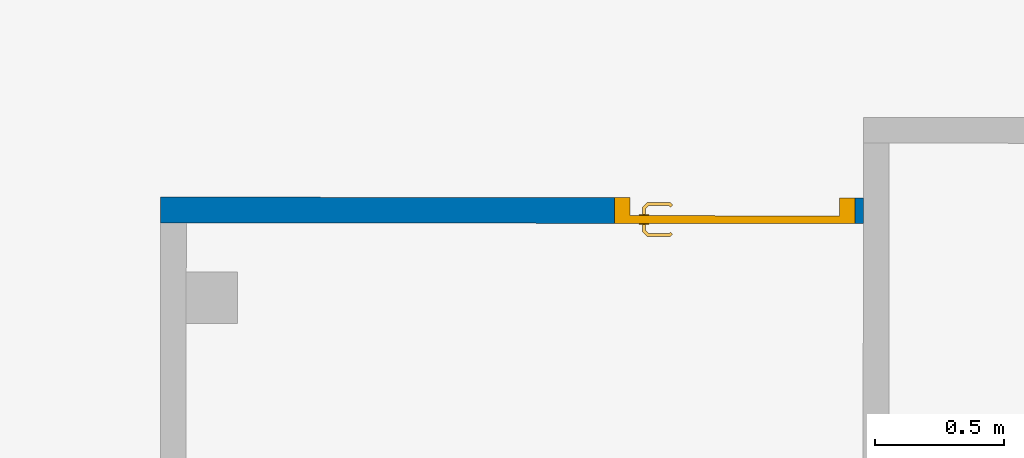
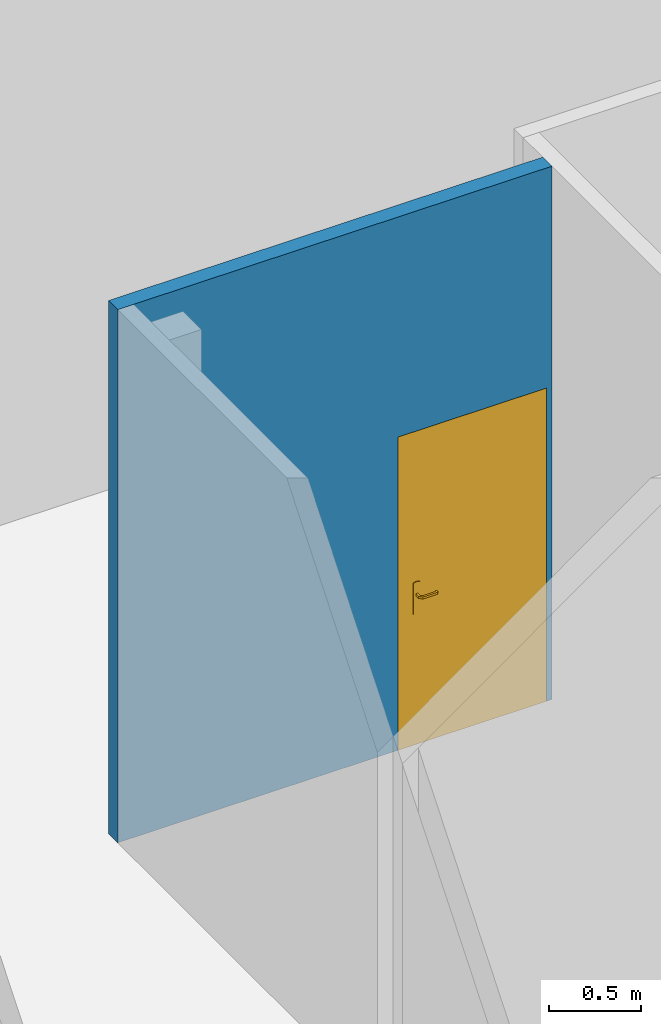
# One storey, part 88 of 101: 1 door, 1 wall, 1 opening.
"""IFC2X3 building model written with IfcOpenShell, lengths in metres."""

from ifc_helpers import new_model, entity, si_unit, converted_unit, derived_unit, direction, frame, frame_2d, origin, place, context, subcontext, project, spatial, rectangle, extrude, faceted_brep, source, transform, mapped, material, material_list, layer, layer_set, layer_usage, type_object, type_shapes, element, fill, save


model = new_model("IFC2X3")

# Units and contexts
model_context = context("Model", 3, precision=1e-05, world=origin(), true_north=direction((6.123233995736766e-17, 1.0)))
body_context = subcontext(model_context, "Body", "Model", "MODEL_VIEW")
ifc_project = project(units=[si_unit("LENGTHUNIT", "METRE"), si_unit("AREAUNIT", "SQUARE_METRE"), converted_unit("PLANEANGLEUNIT", "DEGREE", entity("IfcPlaneAngleMeasure", 0.017453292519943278), si_unit("PLANEANGLEUNIT", "RADIAN"), dimensions=[0, 0, 0, 0, 0, 0, 0]), derived_unit("THERMALTRANSMITTANCEUNIT", [(si_unit("MASSUNIT", "GRAM", prefix="KILO"), 1), (si_unit("THERMODYNAMICTEMPERATUREUNIT", "KELVIN"), -1), (si_unit("TIMEUNIT", "SECOND"), -3)])], contexts=[model_context])

# Site, building, storey
site_placement = place(None, frame((1253.6752467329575, 2072.143113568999, 91.49999999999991), z_axis=(0.0, 0.0, 1.0), x_axis=(0.7237211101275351, 0.6900925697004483, 0.0)))
site = spatial("IfcSite", under=ifc_project, at=site_placement, Name="Surface", CompositionType="ELEMENT")
building_placement = place(site_placement, origin())
building = spatial("IfcBuilding", under=site, at=building_placement, CompositionType="ELEMENT")
storey_placement = place(building_placement, origin())
storey = spatial("IfcBuildingStorey", under=building, at=storey_placement, Name="0- Rdc", CompositionType="ELEMENT", Elevation=-5.764692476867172e-13)

# Wall, opening, door
ifc_material_1 = material(Name="OMD_Béton blanc")
ifc_layer = layer(ifc_material_1, 0.1)
ifc_layer_set = layer_set([ifc_layer], Name="Mur de base:MUR 10")
ifc_layer_usage = layer_usage(ifc_layer_set, "AXIS2", "NEGATIVE", 0.05)
wall_type = type_object("IfcWallType", Name="Mur de base:MUR 10", PredefinedType="STANDARD", material=ifc_layer_set)
wall_placement = place(storey_placement, frame((197.28982109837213, -6.471349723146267, 0.0), z_axis=(0.0, 0.0, 1.0), x_axis=(-0.7228702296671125, 0.6909838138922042, 0.0)))
wall = element("IfcWallStandardCase", 1, at=wall_placement, inside=storey, type_object=wall_type, material=ifc_layer_usage, Name="Mur de base:MUR 10", ObjectType="Mur de base:MUR 10", context=body_context, shape_type="SweptSolid", body=[
    extrude(rectangle(XDim=2.7310826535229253, YDim=0.10000000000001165, at=frame_2d((1.3655413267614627, -2.518818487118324e-15), x_axis=(-1.0, 0.0))), origin(), (0.0, 0.0, 1.0), 3.5499999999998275),
])
opening_placement = place(wall_placement, frame((0.032500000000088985, -0.0500000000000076, 0.0)))
opening = element("IfcOpeningElement", 2, at=opening_placement, cuts=wall, Name="OMD_Porte 1V tunnel:80x204:1", ObjectType="Opening", context=body_context, shape_type="SweptSolid", body=[
    extrude(rectangle(XDim=2.0850000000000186, YDim=0.9349999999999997, at=frame_2d((1.0425000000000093, 0.46749999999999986), x_axis=(1.0, 0.0))), frame((0.0, 0.0, 0.0), z_axis=(0.0, 1.0, 0.0), x_axis=(0.0, 0.0, 1.0)), (0.0, 0.0, 1.0), 0.09999999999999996),
])
ifc_material_2 = material(Name="Porte - Poignée")
ifc_material_3 = material(Name="OMD_Peinture mur")
ifc_material_4 = material(Name="OMD_Bois")
ifc_material_list = material_list([ifc_material_2, ifc_material_3, ifc_material_4])
door_style = type_object("IfcDoorStyle", Name="OMD_Porte 1V tunnel:80x204", ConstructionType="NOTDEFINED", OperationType="NOTDEFINED", ParameterTakesPrecedence=False, Sizeable=False, material=ifc_material_list)
shared_shape = source(origin(), body_context, "Body", "Brep", [
    faceted_brep([(0.21297470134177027, 0.03500000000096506, 1.0077804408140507), (0.20900000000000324, 0.03500000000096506, 1.0069999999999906), (0.208999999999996, 0.03500000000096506, 0.9929999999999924), (0.21297470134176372, 0.03500000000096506, 0.9922195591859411), (0.21702529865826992, 0.03500000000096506, 0.9922195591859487), (0.22100000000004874, 0.03500000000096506, 0.9930000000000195), (0.22100000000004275, 0.03500000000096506, 1.0069999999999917), (0.2170252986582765, 0.03500000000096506, 1.007780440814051), (0.22100000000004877, 0.05748520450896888, 0.9930000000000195), (0.22100000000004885, 0.057485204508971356, 1.0069999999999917), (0.21702529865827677, 0.059131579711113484, 1.007780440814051), (0.23083890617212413, 0.07294518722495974, 1.007780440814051), (0.2291610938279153, 0.07699578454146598, 1.0077804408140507), (0.21297470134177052, 0.060809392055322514, 1.0077804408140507), (0.3206847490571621, 0.0664673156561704, 1.0077804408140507), (0.32354895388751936, 0.06933152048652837, 1.0077804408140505), (0.31588468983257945, 0.07699578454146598, 1.0077804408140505), (0.31420687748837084, 0.07294518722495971, 1.0077804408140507), (0.20900000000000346, 0.06245576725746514, 1.0069999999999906), (0.20900000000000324, 0.06245576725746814, 0.9929999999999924), (0.21297470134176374, 0.06080939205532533, 0.9922195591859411), (0.22916109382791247, 0.07699578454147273, 0.9922195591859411), (0.23083890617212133, 0.07294518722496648, 0.9922195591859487), (0.21702529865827, 0.05913157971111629, 0.9922195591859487), (0.32354895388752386, 0.06933152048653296, 0.9922195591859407), (0.3206847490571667, 0.06646731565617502, 0.9922195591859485), (0.3142068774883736, 0.07294518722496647, 0.9922195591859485), (0.3158846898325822, 0.07699578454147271, 0.9922195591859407), (0.23248528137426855, 0.0689704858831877, 0.9930000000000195), (0.23248528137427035, 0.06897048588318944, 1.0069999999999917), (0.22751471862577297, 0.0809704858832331, 1.0069999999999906), (0.22751471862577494, 0.08097048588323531, 0.9929999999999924), (0.2725228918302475, 0.06897048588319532, 0.9930000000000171), (0.3125605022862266, 0.06897048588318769, 0.9930000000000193), (0.31256050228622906, 0.06897048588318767, 1.0069999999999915), (0.2725228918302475, 0.0689704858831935, 1.0069999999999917), (0.2725228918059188, 0.07512492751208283, 1.0078781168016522), (0.31753106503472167, 0.08097048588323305, 1.0069999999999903), (0.2776005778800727, 0.08097048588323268, 1.0069999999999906), (0.31753106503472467, 0.08097048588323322, 0.9929999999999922), (0.2674452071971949, 0.08097048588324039, 0.9929999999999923), (0.2725228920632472, 0.07512492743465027, 0.9921218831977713), (0.317874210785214, 0.06365677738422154, 0.9930000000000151), (0.32635949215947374, 0.07214205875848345, 0.99299999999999), (0.3263594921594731, 0.07214205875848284, 1.0069999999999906), (0.317874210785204, 0.06365677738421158, 1.0069999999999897)], [[[0, 1, 2, 3, 4, 5, 6, 7]], [[6, 5, 8, 9]], [[9, 10, 7, 6]], [[10, 11, 12, 13, 0, 7]], [[14, 15, 16, 17]], [[13, 18, 1, 0]], [[2, 1, 18, 19]], [[19, 20, 3, 2]], [[20, 21, 22, 23, 4, 3]], [[24, 25, 26, 27]], [[23, 8, 5, 4]], [[9, 8, 28, 29]], [[29, 11, 10, 9]], [[12, 30, 18, 13]], [[19, 18, 30, 31]], [[31, 21, 20, 19]], [[22, 28, 8, 23]], [[29, 28, 32, 33, 34, 35]], [[11, 35, 36]], [[16, 37, 38]], [[30, 12, 38]], [[38, 12, 36]], [[36, 35, 17]], [[17, 16, 36]], [[35, 11, 29]], [[34, 17, 35]], [[11, 36, 12]], [[38, 36, 16]], [[31, 30, 38, 37, 39, 40]], [[40, 41, 21]], [[41, 40, 27]], [[21, 31, 40]], [[39, 27, 40]], [[41, 32, 22]], [[22, 21, 41]], [[26, 32, 41]], [[28, 22, 32]], [[32, 26, 33]], [[26, 41, 27]], [[42, 25, 24, 43, 44, 15, 14, 45]], [[34, 33, 42, 45]], [[45, 14, 17, 34]], [[15, 44, 37, 16]], [[39, 37, 44, 43]], [[43, 24, 27, 39]], [[25, 42, 33, 26]]]),
    faceted_brep([(0.21297470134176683, -0.004999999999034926, 1.0077804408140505), (0.2170252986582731, -0.004999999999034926, 1.007780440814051), (0.2210000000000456, -0.004999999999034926, 1.006999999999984), (0.22100000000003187, -0.004999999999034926, 0.9930000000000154), (0.21702529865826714, -0.004999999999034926, 0.9922195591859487), (0.21297470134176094, -0.004999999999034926, 0.992219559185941), (0.20900000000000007, -0.004999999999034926, 0.992999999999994), (0.20900000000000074, -0.004999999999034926, 1.0069999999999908), (0.20900000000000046, -0.03265095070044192, 1.0069999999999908), (0.21297470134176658, -0.03100457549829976, 1.0077804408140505), (0.22902358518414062, -0.04705345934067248, 1.0077804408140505), (0.2307013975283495, -0.04300286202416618, 1.007780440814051), (0.21702529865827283, -0.02932676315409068, 1.007780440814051), (0.3235218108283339, -0.039389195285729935, 1.0077804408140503), (0.3206576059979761, -0.03652499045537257, 1.0077804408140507), (0.3141797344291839, -0.04300286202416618, 1.0077804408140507), (0.31585754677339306, -0.04705345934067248, 1.0077804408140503), (0.22100000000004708, -0.027680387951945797, 1.0069999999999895), (0.22100000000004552, -0.02768038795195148, 0.9930000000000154), (0.21702529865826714, -0.029326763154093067, 0.9922195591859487), (0.23070139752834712, -0.04300286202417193, 0.9922195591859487), (0.2290235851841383, -0.0470534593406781, 0.992219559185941), (0.21297470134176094, -0.031004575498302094, 0.992219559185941), (0.32065760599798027, -0.036524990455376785, 0.9922195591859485), (0.3235218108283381, -0.03938919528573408, 0.9922195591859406), (0.31585754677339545, -0.047053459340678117, 0.9922195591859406), (0.3141797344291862, -0.04300286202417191, 0.9922195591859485), (0.20899999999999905, -0.032650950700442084, 0.9929999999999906), (0.22737720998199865, -0.051028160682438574, 1.0069999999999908), (0.23234777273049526, -0.03902816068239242, 1.0069999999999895), (0.23234777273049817, -0.03902816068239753, 0.9930000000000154), (0.22737720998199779, -0.051028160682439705, 0.9929999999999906), (0.2673076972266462, -0.05102816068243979, 1.0069999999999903), (0.272440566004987, -0.0451828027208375, 1.0078781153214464), (0.3175039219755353, -0.05102816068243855, 1.0069999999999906), (0.27244056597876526, -0.039028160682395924, 1.0069999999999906), (0.3125333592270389, -0.03902816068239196, 1.0069999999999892), (0.31253335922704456, -0.03902816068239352, 0.9930000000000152), (0.27244056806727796, -0.03902816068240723, 0.9930000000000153), (0.27244056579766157, -0.04518280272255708, 0.9921218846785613), (0.3175039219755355, -0.051028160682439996, 0.9929999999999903), (0.27757344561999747, -0.051028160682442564, 0.9929999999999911), (0.3178470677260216, -0.03371445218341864, 1.0069999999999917), (0.3263323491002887, -0.04219973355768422, 1.0069999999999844), (0.3263323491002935, -0.04219973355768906, 0.9929999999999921), (0.31784706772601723, -0.033714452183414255, 0.9930000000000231)], [[[0, 1, 2, 3, 4, 5, 6, 7]], [[8, 9, 0, 7]], [[9, 10, 11, 12, 1, 0]], [[13, 14, 15, 16]], [[12, 17, 2, 1]], [[3, 2, 17, 18]], [[18, 19, 4, 3]], [[19, 20, 21, 22, 5, 4]], [[23, 24, 25, 26]], [[22, 27, 6, 5]], [[7, 6, 27, 8]], [[28, 10, 9, 8]], [[11, 29, 17, 12]], [[18, 17, 29, 30]], [[30, 20, 19, 18]], [[21, 31, 27, 22]], [[8, 27, 31, 28]], [[32, 33, 10]], [[33, 32, 16]], [[10, 28, 32]], [[34, 16, 32]], [[33, 35, 11]], [[11, 10, 33]], [[15, 35, 33]], [[29, 11, 35]], [[35, 15, 36]], [[15, 33, 16]], [[30, 29, 35, 36, 37, 38]], [[20, 38, 39]], [[25, 40, 41]], [[31, 21, 41]], [[41, 21, 39]], [[39, 38, 26]], [[26, 25, 39]], [[38, 20, 30]], [[37, 26, 38]], [[20, 39, 21]], [[41, 39, 25]], [[28, 31, 41, 40, 34, 32]], [[42, 14, 13, 43, 44, 24, 23, 45]], [[43, 13, 16, 34]], [[14, 42, 36, 15]], [[37, 36, 42, 45]], [[45, 23, 26, 37]], [[24, 44, 40, 25]], [[34, 40, 44, 43]]]),
    faceted_brep([(0.22535276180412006, 0.030000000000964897, 0.8660039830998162), (0.2350000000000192, 0.030000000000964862, 0.8700000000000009), (0.2350000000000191, 0.030000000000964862, 1.0800000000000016), (0.2253527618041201, 0.030000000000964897, 1.0839960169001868), (0.21500000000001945, 0.030000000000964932, 1.0853589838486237), (0.20464723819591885, 0.03000000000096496, 1.0839960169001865), (0.19500000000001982, 0.030000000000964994, 1.0800000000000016), (0.19500000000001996, 0.030000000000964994, 0.8700000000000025), (0.20464723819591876, 0.03000000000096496, 0.866003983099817), (0.21500000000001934, 0.030000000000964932, 0.8646410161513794), (0.22535276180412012, 0.0350000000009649, 1.0839960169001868), (0.2350000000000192, 0.03500000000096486, 1.0800000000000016), (0.23500000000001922, 0.03500000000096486, 0.8700000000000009), (0.22535276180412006, 0.0350000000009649, 0.8660039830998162), (0.21500000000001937, 0.03500000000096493, 0.8646410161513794), (0.20464723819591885, 0.03500000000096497, 0.866003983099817), (0.19500000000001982, 0.035000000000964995, 0.8700000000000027), (0.19500000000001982, 0.035000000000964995, 1.0800000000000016), (0.20464723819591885, 0.03500000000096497, 1.0839960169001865), (0.21500000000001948, 0.03500000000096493, 1.0853589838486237)], [[[0, 1, 2, 3, 4, 5, 6, 7, 8, 9]], [[10, 11, 12, 13, 14, 15, 16, 17, 18, 19]], [[11, 10, 3, 2]], [[3, 10, 19, 4]], [[19, 18, 5, 4]], [[18, 17, 6, 5]], [[7, 6, 17, 16]], [[16, 15, 8, 7]], [[8, 15, 14, 9]], [[14, 13, 0, 9]], [[13, 12, 1, 0]], [[2, 1, 12, 11]]]),
    faceted_brep([(0.22535276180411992, -0.004999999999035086, 0.8660039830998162), (0.2350000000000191, -0.004999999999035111, 0.8700000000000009), (0.23500000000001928, -0.004999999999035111, 1.0800000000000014), (0.22535276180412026, -0.004999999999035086, 1.0839960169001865), (0.2150000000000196, -0.004999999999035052, 1.0853589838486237), (0.20464723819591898, -0.0049999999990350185, 1.0839960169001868), (0.19500000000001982, -0.004999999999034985, 1.0800000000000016), (0.19500000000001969, -0.004999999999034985, 0.8700000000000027), (0.20464723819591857, -0.0049999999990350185, 0.8660039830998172), (0.21500000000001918, -0.004999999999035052, 0.8646410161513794), (0.22535276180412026, 0.0, 1.0839960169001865), (0.2350000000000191, 0.0, 1.0800000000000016), (0.2350000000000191, 0.0, 0.8700000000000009), (0.22535276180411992, 0.0, 0.8660039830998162), (0.21500000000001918, 0.0, 0.8646410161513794), (0.20464723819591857, 0.0, 0.8660039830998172), (0.19500000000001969, 0.0, 0.8700000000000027), (0.19500000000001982, 0.0, 1.0800000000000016), (0.20464723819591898, 0.0, 1.0839960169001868), (0.2150000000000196, 0.0, 1.0853589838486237)], [[[0, 1, 2, 3, 4, 5, 6, 7, 8, 9]], [[10, 11, 12, 13, 14, 15, 16, 17, 18, 19]], [[16, 15, 8, 7]], [[8, 15, 14, 9]], [[14, 13, 0, 9]], [[13, 12, 1, 0]], [[2, 1, 12, 11]], [[11, 10, 3, 2]], [[3, 10, 19, 4]], [[19, 18, 5, 4]], [[18, 17, 6, 5]], [[7, 6, 17, 16]]]),
    faceted_brep([(0.14500000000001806, 0.030000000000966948, 0.0), (0.9900000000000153, 0.030000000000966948, 0.0), (0.9900000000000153, 0.0, 0.0), (0.14500000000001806, 0.0, 0.0), (0.14500000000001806, 0.030000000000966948, 2.04), (0.14500000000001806, 0.0, 2.04), (0.9900000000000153, 0.0, 2.04), (0.9900000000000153, 0.030000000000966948, 2.04)], [[[0, 1, 2, 3]], [[4, 0, 3, 5]], [[5, 3, 2, 6]], [[6, 2, 1, 7]], [[7, 1, 0, 4]], [[4, 5, 6, 7]]]),
    faceted_brep([(0.10000000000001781, 0.0, 0.0), (0.10000000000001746, 0.10000000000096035, 0.0), (0.16000000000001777, 0.10000000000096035, 0.0), (0.16000000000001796, 0.03000000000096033, 0.0), (0.145000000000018, 0.03000000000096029, 0.0), (0.14500000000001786, 0.0, 0.0), (0.145000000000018, 0.0, 2.04), (0.9900000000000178, 0.0, 2.0400000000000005), (0.9900000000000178, 0.0, 0.0), (1.0350000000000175, 0.0, 0.0), (1.0350000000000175, 0.0, 2.085), (0.10000000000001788, 0.0, 2.085), (0.14500000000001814, 0.030000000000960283, 2.04), (0.16000000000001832, 0.03000000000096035, 2.0249999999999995), (0.9750000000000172, 0.03000000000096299, 2.0249999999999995), (0.9750000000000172, 0.03000000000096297, 0.0), (0.9900000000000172, 0.03000000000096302, 0.0), (0.9900000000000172, 0.03000000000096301, 2.0399999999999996), (0.16000000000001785, 0.10000000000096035, 2.0249999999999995), (0.1000000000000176, 0.10000000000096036, 2.085), (1.0350000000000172, 0.10000000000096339, 2.085), (1.0350000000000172, 0.10000000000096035, 0.0), (0.9750000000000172, 0.10000000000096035, 0.0), (0.9750000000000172, 0.10000000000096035, 2.025)], [[[0, 1, 2, 3, 4, 5]], [[5, 6, 7, 8, 9, 10, 11, 0]], [[4, 12, 6, 5]], [[3, 13, 14, 15, 16, 17, 12, 4]], [[2, 18, 13, 3]], [[1, 19, 20, 21, 22, 23, 18, 2]], [[0, 11, 19, 1]], [[10, 9, 21, 20]], [[9, 8, 16, 15, 22, 21]], [[17, 16, 8, 7]], [[23, 22, 15, 14]], [[12, 17, 7, 6]], [[18, 23, 14, 13]], [[11, 10, 20, 19]]]),
])
type_shapes(door_style, [shared_shape])
door_placement = place(opening_placement, frame((1.0350000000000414, 0.10000000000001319, 0.0), z_axis=(0.0, 0.0, 1.0), x_axis=(-1.0, 0.0, 0.0)))
door = element("IfcDoor", 3, at=door_placement, inside=storey, type_object=door_style, material=ifc_material_list, Name="OMD_Porte 1V tunnel:80x204", ObjectType="OMD_Porte 1V tunnel:80x204", OverallHeight=2.0850000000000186, OverallWidth=0.9350000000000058, context=body_context, shape_type="MappedRepresentation", body=[
    mapped(shared_shape, transform((0.0, 0.0, 0.0), scale=1.0)),
])
fill(opening, door)

save(model, "model.ifc")
